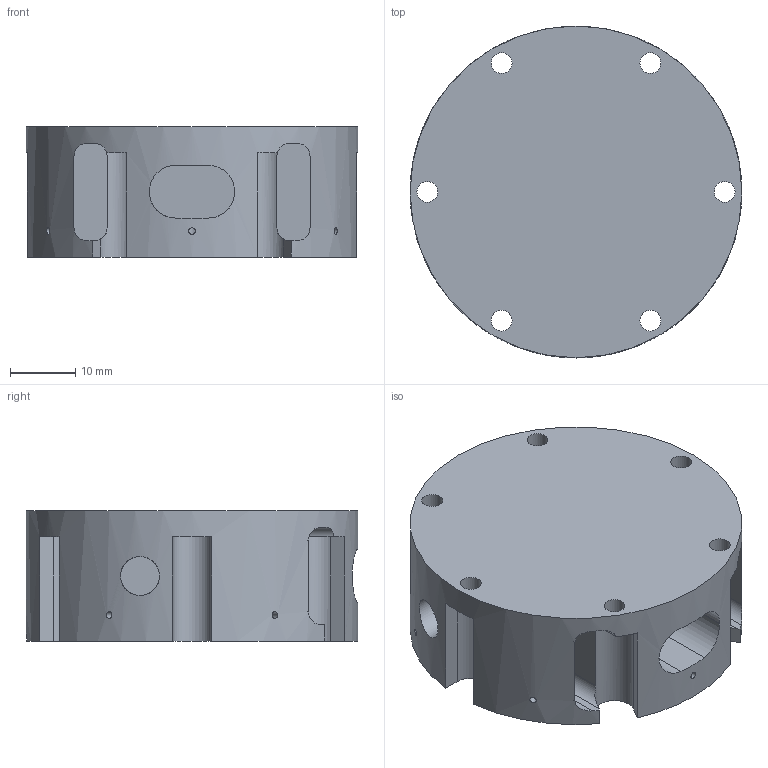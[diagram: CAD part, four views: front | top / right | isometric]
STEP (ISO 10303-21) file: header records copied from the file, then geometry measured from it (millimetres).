
FILE_DESCRIPTION(('FreeCAD Model'),'2;1');
FILE_NAME('Open CASCADE Shape Model','2025-06-16T20:15:24',(''),(''), 'Open CASCADE STEP processor 7.6','FreeCAD','Unknown');
FILE_SCHEMA(('CONFIG_CONTROL_DESIGN','SHAPE_APPEARANCE_LAYER_MIM'));
Length unit declared in the file: millimetre
Products named in the file (1): HeaterAttachment
Bounding box: 51 x 51 x 20 mm (x, y, z)
Volume: 28533.5 mm3; surface area: 12408.9 mm2
Topology: 1 solids, 1 shells, 99 faces, 271 edges, 174 vertices
Faces by surface type: plane 58, cylinder 41
Full cylindrical faces by diameter (mm): 1 x6, 2.26 x6, 3.2 x7, 6 x2, 8 x1, 51 x1
Entity records: 4376 total; most frequent: CARTESIAN_POINT 1714, DIRECTION 551, ORIENTED_EDGE 542, EDGE_CURVE 271, AXIS2_PLACEMENT_3D 210, VERTEX_POINT 174, LINE 131, VECTOR 131
